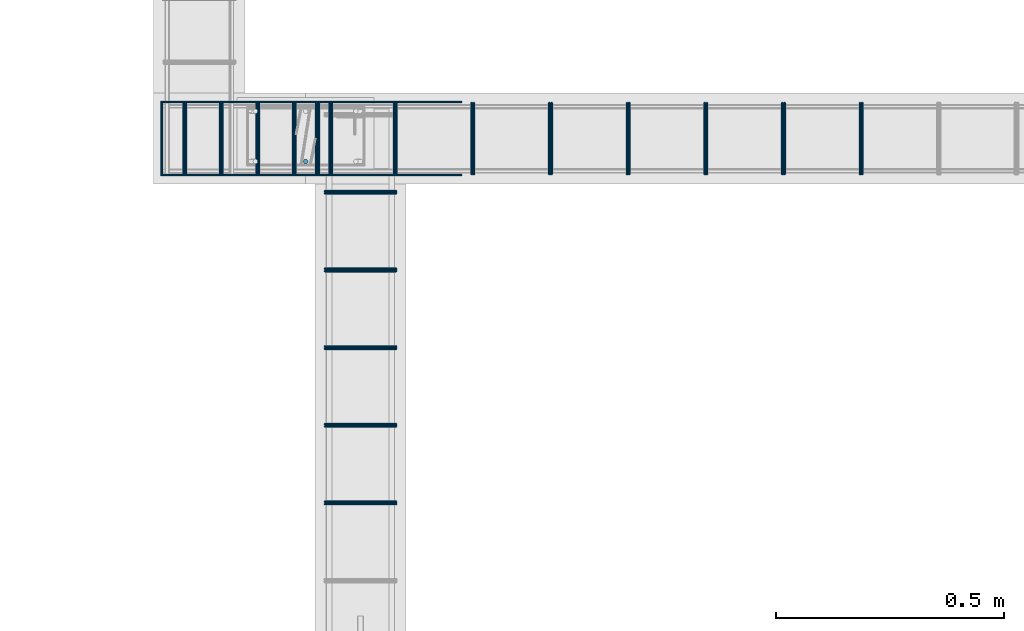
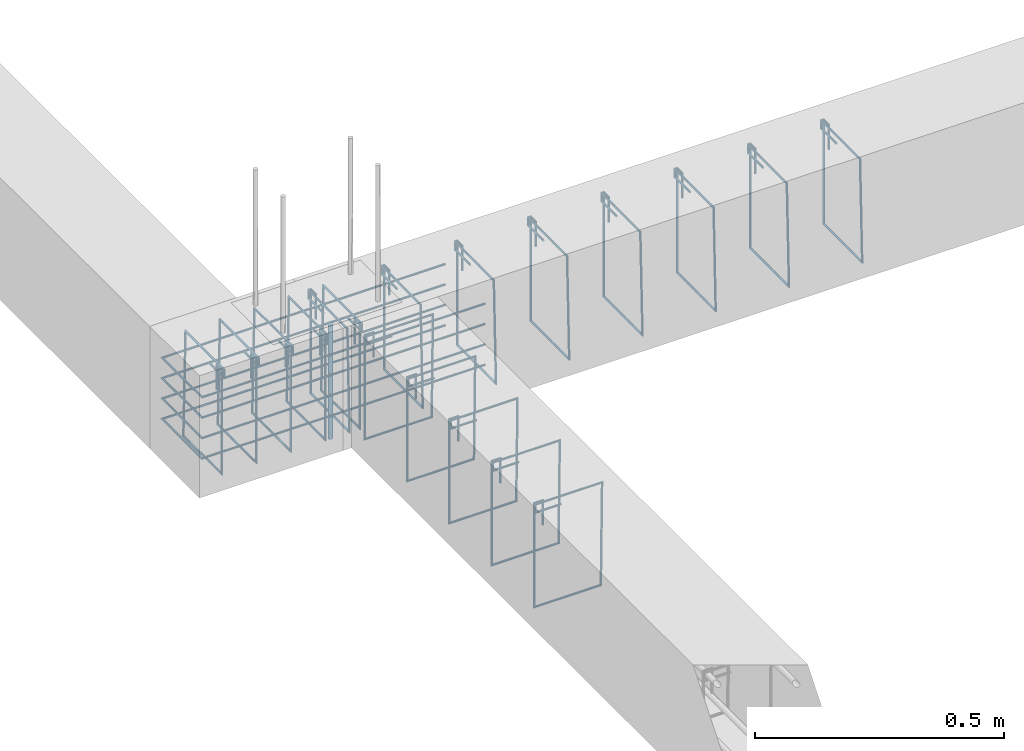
# One storey, part 67 of 150: 23 reinforcing bars.
"""IFC4 building model written with IfcOpenShell, lengths in centimetres."""

from ifc_helpers import new_model, entity, si_unit, derived_unit, frame, origin_with_axes, place, context, project, spatial, source, transform, mapped, element, save


model = new_model("IFC4")

# Units and contexts
model_context = context("Model", 3, precision=1e-05, world=origin_with_axes(), identifier="Body")
ifc_project = project(units=[si_unit("LENGTHUNIT", "METRE", prefix="CENTI"), si_unit("VOLUMEUNIT", "CUBIC_METRE"), si_unit("AREAUNIT", "SQUARE_METRE"), si_unit("POWERUNIT", "WATT"), si_unit("LUMINOUSFLUXUNIT", "LUMEN"), si_unit("ELECTRICCURRENTUNIT", "AMPERE"), si_unit("PRESSUREUNIT", "PASCAL", prefix="KILO"), si_unit("MASSUNIT", "GRAM", prefix="KILO"), si_unit("PLANEANGLEUNIT", "RADIAN"), derived_unit("VOLUMETRICFLOWRATEUNIT", [(si_unit("LENGTHUNIT", "METRE"), 3), (si_unit("TIMEUNIT", "SECOND"), -1)])], contexts=[model_context])

# Site, building, storey
site_placement = place(None, frame((-4000.0, 0.0, 0.0), z_axis=(0.0, 0.0, 1.0), x_axis=(1.0, 0.0, 0.0)))
site = spatial("IfcSite", under=ifc_project, at=site_placement, Name="PADRÃO")
building_placement = place(site_placement, frame((0.0, 0.0, -14.0)))
building = spatial("IfcBuilding", under=site, at=building_placement, Name="CRECHE PRÉ-ESCOLA TIPO 2")
placement = place(building_placement, origin_with_axes())
storey_placement = place(placement, frame((0.0, 0.0, 30.0), z_axis=(0.0, 0.0, 1.0), x_axis=(1.0, 0.0, 0.0)))
storey = spatial("IfcBuildingStorey", under=building, at=storey_placement, Name="VIGA BALDRAME", CompositionType="ELEMENT", Elevation=16.0)

# Reinforcing bars
shared_shape_1 = source(origin_with_axes(), model_context, "Body", "AdvancedSweptSolid", [
    entity("IfcSweptDiskSolid", entity("IfcCompositeCurve", [entity("IfcCompositeCurveSegment", "CONTINUOUS", True, entity("IfcPolyline", [entity("IfcCartesianPoint", [2.0, -6.0, 0.0]), entity("IfcCartesianPoint", [2.0, 0.0, 0.0])])), entity("IfcCompositeCurveSegment", "CONTINUOUS", True, entity("IfcPolyline", [entity("IfcCartesianPoint", [2.0, 0.0, 0.0]), entity("IfcCartesianPoint", [0.0, 0.0, 0.0])])), entity("IfcCompositeCurveSegment", "CONTINUOUS", True, entity("IfcPolyline", [entity("IfcCartesianPoint", [0.0, 0.0, 0.0]), entity("IfcCartesianPoint", [0.0, -25.5, 0.0])])), entity("IfcCompositeCurveSegment", "CONTINUOUS", True, entity("IfcPolyline", [entity("IfcCartesianPoint", [0.0, -25.5, 0.0]), entity("IfcCartesianPoint", [15.5, -25.5, 0.0])])), entity("IfcCompositeCurveSegment", "CONTINUOUS", True, entity("IfcPolyline", [entity("IfcCartesianPoint", [15.5, -25.5, 0.0]), entity("IfcCartesianPoint", [15.5, 0.0, 0.5])])), entity("IfcCompositeCurveSegment", "CONTINUOUS", True, entity("IfcPolyline", [entity("IfcCartesianPoint", [15.5, 0.0, 0.5]), entity("IfcCartesianPoint", [0.0, 0.0, 0.5])])), entity("IfcCompositeCurveSegment", "CONTINUOUS", True, entity("IfcPolyline", [entity("IfcCartesianPoint", [0.0, 0.0, 0.5]), entity("IfcCartesianPoint", [0.0, -2.0, 0.5])])), entity("IfcCompositeCurveSegment", "CONTINUOUS", True, entity("IfcPolyline", [entity("IfcCartesianPoint", [0.0, -2.0, 0.5]), entity("IfcCartesianPoint", [6.0, -2.0, 0.5])]))], False), 0.25),
])
for number, where, z_axis, x_axis, name in (
    (1, (240.24, 3192.27, -2.25), (1.0, 0.0, 0.0), (0.0, 1.0, 0.0), "V113 - Estribo"),
    (2, (248.24, 3192.27, -2.25), (1.0, 0.0, 0.0), (0.0, 1.0, 0.0), "V113 - Estribo"),
    (3, (256.24, 3192.27, -2.25), (1.0, 0.0, 0.0), (0.0, 1.0, 0.0), "V113 - Estribo"),
    (4, (264.24, 3192.27, -2.25), (1.0, 0.0, 0.0), (0.0, 1.0, 0.0), "V113 - Estribo"),
    (5, (272.24, 3192.27, -2.25), (1.0, 0.0, 0.0), (0.0, 1.0, 0.0), "V113 - Estribo"),
):
    element("IfcReinforcingBar", number, at=place(storey_placement, frame(where, z_axis=z_axis, x_axis=x_axis)), inside=storey, Name=name, BarLength=0.0, CrossSectionArea=1.9634954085e-05, NominalDiameter=0.5, PredefinedType="MAIN", context=model_context, shape_type="MappedRepresentation", body=[
        mapped(shared_shape_1, transform((0.0, 0.0, 0.0), scale=1.0)),
    ])
shared_shape_2 = source(origin_with_axes(), model_context, "Body", "AdvancedSweptSolid", [
    entity("IfcSweptDiskSolid", entity("IfcCompositeCurve", [entity("IfcCompositeCurveSegment", "CONTINUOUS", True, entity("IfcPolyline", [entity("IfcCartesianPoint", [2.0, -6.0, 0.0]), entity("IfcCartesianPoint", [2.0, 0.0, 0.0])])), entity("IfcCompositeCurveSegment", "CONTINUOUS", True, entity("IfcPolyline", [entity("IfcCartesianPoint", [2.0, 0.0, 0.0]), entity("IfcCartesianPoint", [0.0, 0.0, 0.0])])), entity("IfcCompositeCurveSegment", "CONTINUOUS", True, entity("IfcPolyline", [entity("IfcCartesianPoint", [0.0, 0.0, 0.0]), entity("IfcCartesianPoint", [0.0, -25.5, 0.0])])), entity("IfcCompositeCurveSegment", "CONTINUOUS", True, entity("IfcPolyline", [entity("IfcCartesianPoint", [0.0, -25.5, 0.0]), entity("IfcCartesianPoint", [15.5, -25.5, 0.0])])), entity("IfcCompositeCurveSegment", "CONTINUOUS", True, entity("IfcPolyline", [entity("IfcCartesianPoint", [15.5, -25.5, 0.0]), entity("IfcCartesianPoint", [15.5, 0.0, 0.5])])), entity("IfcCompositeCurveSegment", "CONTINUOUS", True, entity("IfcPolyline", [entity("IfcCartesianPoint", [15.5, 0.0, 0.5]), entity("IfcCartesianPoint", [0.0, 0.0, 0.5])])), entity("IfcCompositeCurveSegment", "CONTINUOUS", True, entity("IfcPolyline", [entity("IfcCartesianPoint", [0.0, 0.0, 0.5]), entity("IfcCartesianPoint", [0.0, -2.0, 0.5])])), entity("IfcCompositeCurveSegment", "CONTINUOUS", True, entity("IfcPolyline", [entity("IfcCartesianPoint", [0.0, -2.0, 0.5]), entity("IfcCartesianPoint", [6.0, -2.0, 0.5])]))], False), 0.25),
])
for number, where, z_axis, x_axis, name in (
    (6, (388.845, 3207.77, -2.25), (-1.0, 0.0, 0.0), (0.0, -1.0, 0.0), "V113 - Estribo"),
    (7, (371.845, 3207.77, -2.25), (-1.0, 0.0, 0.0), (0.0, -1.0, 0.0), "V113 - Estribo"),
    (8, (354.845, 3207.77, -2.25), (-1.0, 0.0, 0.0), (0.0, -1.0, 0.0), "V113 - Estribo"),
    (9, (337.845, 3207.77, -2.25), (-1.0, 0.0, 0.0), (0.0, -1.0, 0.0), "V113 - Estribo"),
    (10, (320.845, 3207.77, -2.25), (-1.0, 0.0, 0.0), (0.0, -1.0, 0.0), "V113 - Estribo"),
    (11, (303.845, 3207.77, -2.25), (-1.0, 0.0, 0.0), (0.0, -1.0, 0.0), "V113 - Estribo"),
    (12, (286.845, 3207.77, -2.25), (-1.0, 0.0, 0.0), (0.0, -1.0, 0.0), "V113 - Estribo"),
    (13, (269.845, 3207.77, -2.25), (-1.0, 0.0, 0.0), (0.0, -1.0, 0.0), "V113 - Estribo"),
):
    element("IfcReinforcingBar", number, at=place(storey_placement, frame(where, z_axis=z_axis, x_axis=x_axis)), inside=storey, Name=name, BarLength=0.0, CrossSectionArea=1.9634954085e-05, NominalDiameter=0.5, PredefinedType="MAIN", context=model_context, shape_type="MappedRepresentation", body=[
        mapped(shared_shape_2, transform((0.0, 0.0, 0.0), scale=1.0)),
    ])
shared_shape_3 = source(origin_with_axes(), model_context, "Body", "AdvancedSweptSolid", [
    entity("IfcSweptDiskSolid", entity("IfcCompositeCurve", [entity("IfcCompositeCurveSegment", "CONTINUOUS", True, entity("IfcPolyline", [entity("IfcCartesianPoint", [0.0, 0.0, 0.0]), entity("IfcCartesianPoint", [-65.7013828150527, 0.0, 0.0])])), entity("IfcCompositeCurveSegment", "CONTINUOUS", True, entity("IfcPolyline", [entity("IfcCartesianPoint", [-65.7013828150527, 0.0, 0.0]), entity("IfcCartesianPoint", [-65.7013828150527, -16.0, 0.0])])), entity("IfcCompositeCurveSegment", "CONTINUOUS", True, entity("IfcPolyline", [entity("IfcCartesianPoint", [-65.7013828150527, -16.0, 0.0]), entity("IfcCartesianPoint", [0.0, -16.0, 0.0])]))], False), 0.25),
])
for number, where, z_axis, x_axis, name in (
    (14, (301.191382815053, 3208.02, -22.1), (0.0, 0.0, 1.0), (1.0, 0.0, 0.0), "V113 - Grampo"),
    (15, (301.191382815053, 3208.02, -17.1), (0.0, 0.0, 1.0), (1.0, 0.0, 0.0), "V113 - Grampo"),
    (16, (301.191382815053, 3208.02, -12.1), (0.0, 0.0, 1.0), (1.0, 0.0, 0.0), "V113 - Grampo"),
    (17, (301.191382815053, 3208.02, -7.1), (0.0, 0.0, 1.0), (1.0, 0.0, 0.0), "V113 - Grampo"),
):
    element("IfcReinforcingBar", number, at=place(storey_placement, frame(where, z_axis=z_axis, x_axis=x_axis)), inside=storey, Name=name, BarLength=0.0, CrossSectionArea=1.9634954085e-05, NominalDiameter=0.5, PredefinedType="MAIN", context=model_context, shape_type="MappedRepresentation", body=[
        mapped(shared_shape_3, transform((0.0, 0.0, 0.0), scale=1.0)),
    ])
shared_shape_4 = source(origin_with_axes(), model_context, "Body", "AdvancedSweptSolid", [
    entity("IfcSweptDiskSolid", entity("IfcCompositeCurve", [entity("IfcCompositeCurveSegment", "CONTINUOUS", True, entity("IfcPolyline", [entity("IfcCartesianPoint", [2.0, -6.0, 0.0]), entity("IfcCartesianPoint", [2.0, 0.0, 0.0])])), entity("IfcCompositeCurveSegment", "CONTINUOUS", True, entity("IfcPolyline", [entity("IfcCartesianPoint", [2.0, 0.0, 0.0]), entity("IfcCartesianPoint", [0.0, 0.0, 0.0])])), entity("IfcCompositeCurveSegment", "CONTINUOUS", True, entity("IfcPolyline", [entity("IfcCartesianPoint", [0.0, 0.0, 0.0]), entity("IfcCartesianPoint", [0.0, -25.5, 0.0])])), entity("IfcCompositeCurveSegment", "CONTINUOUS", True, entity("IfcPolyline", [entity("IfcCartesianPoint", [0.0, -25.5, 0.0]), entity("IfcCartesianPoint", [15.5, -25.5, 0.0])])), entity("IfcCompositeCurveSegment", "CONTINUOUS", True, entity("IfcPolyline", [entity("IfcCartesianPoint", [15.5, -25.5, 0.0]), entity("IfcCartesianPoint", [15.5, 0.0, 0.5])])), entity("IfcCompositeCurveSegment", "CONTINUOUS", True, entity("IfcPolyline", [entity("IfcCartesianPoint", [15.5, 0.0, 0.5]), entity("IfcCartesianPoint", [0.0, 0.0, 0.5])])), entity("IfcCompositeCurveSegment", "CONTINUOUS", True, entity("IfcPolyline", [entity("IfcCartesianPoint", [0.0, 0.0, 0.5]), entity("IfcCartesianPoint", [0.0, -2.0, 0.5])])), entity("IfcCompositeCurveSegment", "CONTINUOUS", True, entity("IfcPolyline", [entity("IfcCartesianPoint", [0.0, -2.0, 0.5]), entity("IfcCartesianPoint", [6.0, -2.0, 0.5])]))], False), 0.25),
])
for number, where, z_axis, x_axis, name in (
    (18, (271.25, 3120.505, -2.25), (0.0, -1.0, 0.0), (1.0, 0.0, 0.0), "V163 - Estribo"),
    (19, (271.25, 3137.505, -2.25), (0.0, -1.0, 0.0), (1.0, 0.0, 0.0), "V163 - Estribo"),
    (20, (271.25, 3154.505, -2.25), (0.0, -1.0, 0.0), (1.0, 0.0, 0.0), "V163 - Estribo"),
    (21, (271.25, 3171.505, -2.25), (0.0, -1.0, 0.0), (1.0, 0.0, 0.0), "V163 - Estribo"),
    (22, (271.25, 3188.505, -2.25), (0.0, -1.0, 0.0), (1.0, 0.0, 0.0), "V163 - Estribo"),
):
    element("IfcReinforcingBar", number, at=place(storey_placement, frame(where, z_axis=z_axis, x_axis=x_axis)), inside=storey, Name=name, BarLength=0.0, CrossSectionArea=1.9634954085e-05, NominalDiameter=0.5, PredefinedType="MAIN", context=model_context, shape_type="MappedRepresentation", body=[
        mapped(shared_shape_4, transform((0.0, 0.0, 0.0), scale=1.0)),
    ])
reinforcing_bar_placement = place(storey_placement, frame((267.0, 3195.0, -2.0), z_axis=(0.0, 0.0, 1.0), x_axis=(1.0, 0.0, 0.0)))
element("IfcReinforcingBar", 23, at=reinforcing_bar_placement, inside=storey, Name="P47 - Longitudinal", BarLength=0.0, CrossSectionArea=7.853981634e-05, NominalDiameter=1.0, PredefinedType="MAIN", context=model_context, shape_type="AdvancedSweptSolid", body=[
    entity("IfcSweptDiskSolid", entity("IfcCompositeCurve", [entity("IfcCompositeCurveSegment", "CONTINUOUS", True, entity("IfcPolyline", [entity("IfcCartesianPoint", [0.0, 0.0, -28.0]), entity("IfcCartesianPoint", [0.0, 0.0, 0.0])]))], False), 0.5),
])

save(model, "model.ifc")
